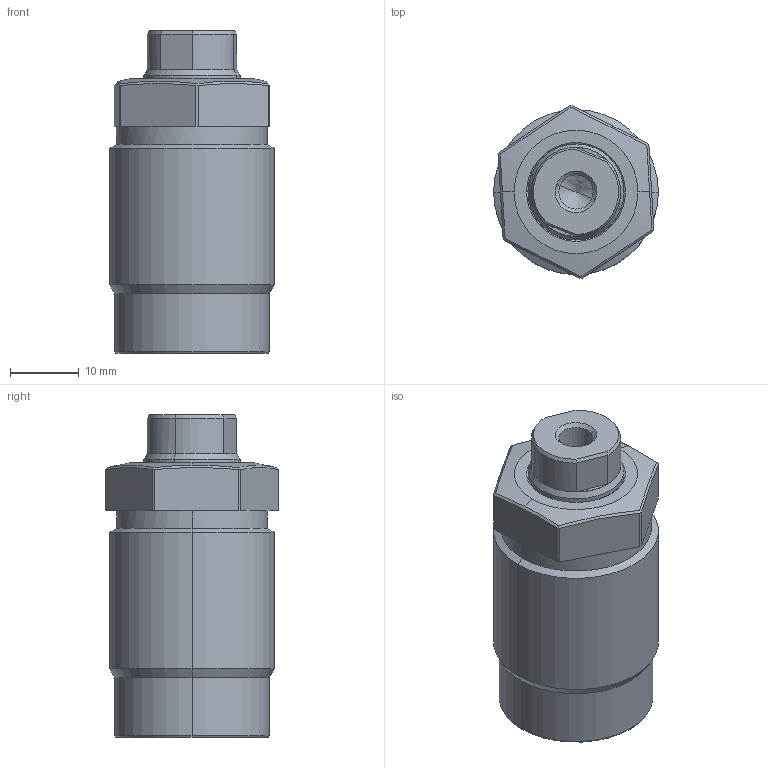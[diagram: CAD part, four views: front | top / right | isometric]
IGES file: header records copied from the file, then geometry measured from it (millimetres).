
Start section: SolidWorks IGES file using analytic representation for surfaces
Global section: file name: F:\THREADED BODY PUSHER-STD\TO3C-M242-M.IGS; native system: SolidWorks 2019; preprocessor: SolidWorks 2019; author: ADMIN; date: 200709.102519; units: millimetre
Bounding box: 24 x 25.18 x 47 mm (x, y, z)
Volume: 17070.7 mm3; surface area: 7233.3 mm2
Topology: 2 solids, 2 shells, 81 faces, 184 edges, 110 vertices
Faces by surface type: revolution 43, plane 32, bspline 6
